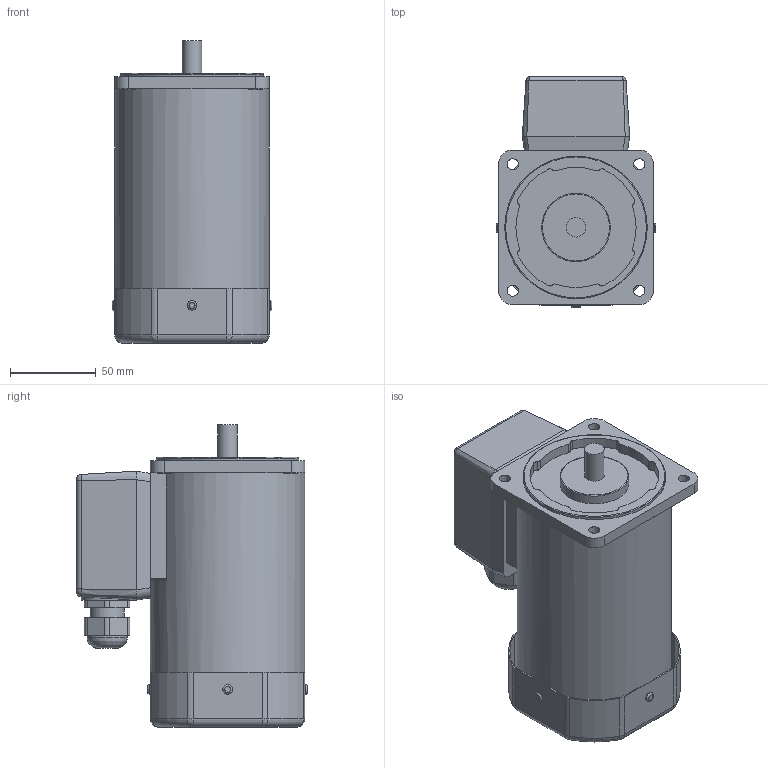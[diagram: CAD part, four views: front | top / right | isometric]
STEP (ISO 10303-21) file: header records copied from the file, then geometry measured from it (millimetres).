
FILE_DESCRIPTION((''),'2;1');
FILE_NAME('E:\2공장-도면\3D\표준형 3D(민규)\step file\K9IP180Fㅁ-T.stp','2014-11-13T10:26:45',('AHN'),(''),'Autodesk Inventor 2012','Autodesk Inventor 2012','');
FILE_SCHEMA(('CONFIG_CONTROL_DESIGN'));
Length unit declared in the file: millimetre
Products named in the file (3): K9IP180Fㅁ-T; K9IP180Fㅁ; TERMINAL BOX
Assembly tree (2 placements, depth 2):
  K9IP180Fㅁ-T
    K9IP180Fㅁ
    TERMINAL BOX
Bounding box: 93 x 134.5 x 176 mm (x, y, z)
Volume: 1117181 mm3; surface area: 110785.9 mm2
Topology: 2 solids, 8 shells, 321 faces, 767 edges, 466 vertices
Faces by surface type: cylinder 151, plane 101, torus 48, bspline 21
Full cylindrical faces by diameter (mm): 5.5 x4, 6.5 x4, 8 x4, 11.3 x1, 20 x1, 23.5 x1, 40 x1, 83 x1, 90 x1
Entity records: 10459 total; most frequent: CARTESIAN_POINT 3013, DIRECTION 1574, ORIENTED_EDGE 1474, EDGE_CURVE 737, AXIS2_PLACEMENT_3D 616, VERTEX_POINT 463, EDGE_LOOP 394, VECTOR 342
